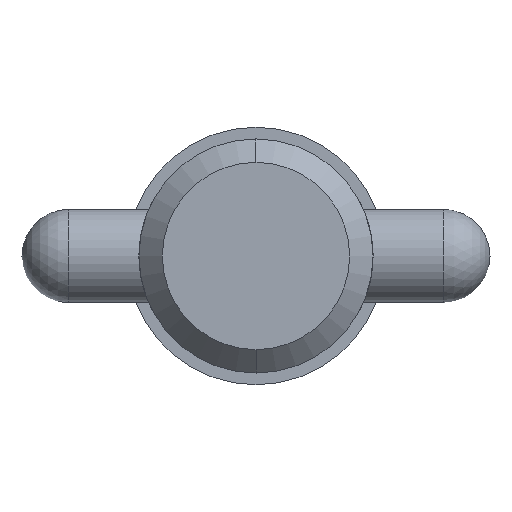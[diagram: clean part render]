
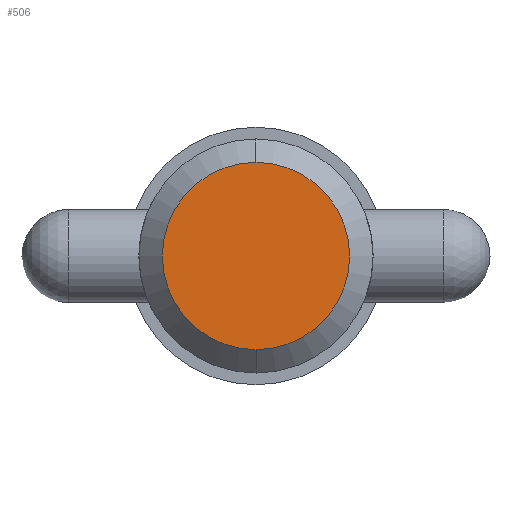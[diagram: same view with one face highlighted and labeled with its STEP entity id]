
A CAD part, left-side view. The second image highlights one B-rep face of the part: STEP entity #506.
In plain terms, the highlighted planar face has unit normal (-1, 0, 0).
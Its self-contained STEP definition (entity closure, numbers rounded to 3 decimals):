
#49 = VERTEX_POINT ( 'NONE', #439 ) ;
#55 = VERTEX_POINT ( 'NONE', #955 ) ;
#68 = CIRCLE ( 'NONE', #703, 6.352 ) ;
#146 = PLANE ( 'NONE',  #740 ) ;
#201 = DIRECTION ( 'NONE',  ( 0., 0., -1. ) ) ;
#281 = EDGE_CURVE ( 'NONE', #49, #55, #68, .T. ) ;
#284 = DIRECTION ( 'NONE',  ( 1., 0., 0. ) ) ;
#292 = CIRCLE ( 'NONE', #891, 6.352 ) ;
#439 = CARTESIAN_POINT ( 'NONE',  ( 0., 0., -6.352 ) ) ;
#462 = EDGE_LOOP ( 'NONE', ( #584, #505 ) ) ;
#484 = CARTESIAN_POINT ( 'NONE',  ( 0., 0., 0. ) ) ;
#505 = ORIENTED_EDGE ( 'NONE', *, *, #843, .F. ) ;
#506 = ADVANCED_FACE ( 'NONE', ( #638 ), #146, .T. ) ;
#551 = CARTESIAN_POINT ( 'NONE',  ( 0., 0., 0. ) ) ;
#584 = ORIENTED_EDGE ( 'NONE', *, *, #281, .F. ) ;
#638 = FACE_OUTER_BOUND ( 'NONE', #462, .T. ) ;
#681 = CARTESIAN_POINT ( 'NONE',  ( 0., 0., 0. ) ) ;
#703 = AXIS2_PLACEMENT_3D ( 'NONE', #551, #284, #201 ) ;
#740 = AXIS2_PLACEMENT_3D ( 'NONE', #681, #906, #995 ) ;
#843 = EDGE_CURVE ( 'NONE', #55, #49, #292, .T. ) ;
#888 = DIRECTION ( 'NONE',  ( 0., 0., -1. ) ) ;
#891 = AXIS2_PLACEMENT_3D ( 'NONE', #484, #895, #888 ) ;
#895 = DIRECTION ( 'NONE',  ( 1., 0., 0. ) ) ;
#906 = DIRECTION ( 'NONE',  ( -1., 0., 0. ) ) ;
#955 = CARTESIAN_POINT ( 'NONE',  ( 0., 0., 6.352 ) ) ;
#995 = DIRECTION ( 'NONE',  ( 0., 0., 1. ) ) ;
